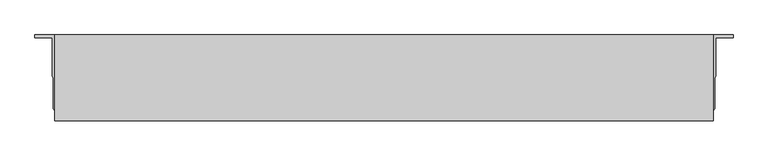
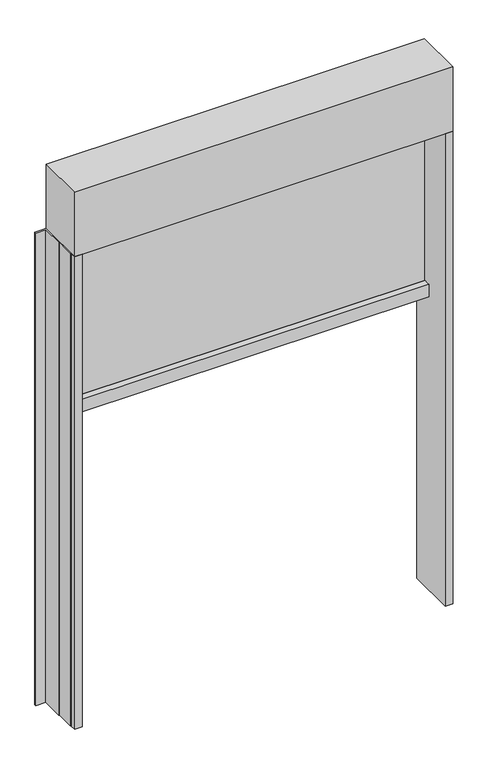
"""IFC4 building model written with IfcOpenShell, lengths in millimetres: proxy geometry, Renson_Fixscreen_Minimal_Single : Recessed - Front of the window - Large - Access downwards - Fabric close to the window."""

from ifc_helpers import new_model, si_unit, point, frame, frame_2d, origin, origin_with_axes, place, context, project, spatial, polyline, circle_curve, trimmed, segment, composite_curve, outline, extrude, source, transform, mapped, element, save


def generic_models_9211857c(model_context):
    return source(origin(), model_context, "Body", "SweptSolid", [
        extrude(outline(polyline([(480.0, 563.5959909), (480.0, 693.5959909), (530.0, 693.5959909), (530.0, 689.6512978), (503.5, 689.6512978), (503.5, 631.1902044), (502.0, 628.8617773), (502.0, 581.1602044), (500.0, 578.3317773), (500.0, 563.5959909), (480.0, 563.5959909)])), origin_with_axes(), (0.0, 0.0, 1.0), 1320.0),
        extrude(outline(polyline([(-480.0, 563.5959909), (-500.0, 563.5959909), (-500.0, 578.3317773), (-502.0, 581.1602044), (-502.0, 628.8617773), (-503.5, 631.1902044), (-503.5, 689.6512978), (-530.0, 689.6512978), (-530.0, 693.5959909), (-480.0, 693.5959909), (-480.0, 563.5959909)])), origin_with_axes(), (0.0, 0.0, 1.0), 1320.0),
        extrude(outline(composite_curve([segment(polyline([(678.5959909, 820.0), (638.0960943, 820.0), (638.0960943, 854.1156826), (655.2198229, 855.0)]), True, "CONTINUOUS"), segment(trimmed(circle_curve(frame_2d((655.2459909, 854.5006852)), 0.5), [point((655.2198229, 855.0))], [point((655.7459909, 854.5006852))], False, "CARTESIAN"), True, "CONTINUOUS"), segment(polyline([(655.7459909, 854.5006852), (655.7459909, 853.5367989), (654.4808525, 853.5367989), (655.221156, 849.0119223)]), True, "CONTINUOUS"), segment(trimmed(circle_curve(frame_2d((615.7459909, 842.5534911)), 40.0), [point((655.221156, 849.0119223))], [point((655.7459909, 842.5534911))], False, "CARTESIAN"), True, "CONTINUOUS"), segment(polyline([(655.7459909, 842.5534911), (655.7459909, 834.5006852)]), True, "CONTINUOUS"), segment(trimmed(circle_curve(frame_2d((657.7459909, 834.5006852)), 2.0), [point((655.7459909, 834.5006852))], [point((657.7459909, 832.5006852))], True, "CARTESIAN"), True, "CONTINUOUS"), segment(polyline([(657.7459909, 832.5006852), (659.4459909, 832.5006852)]), True, "CONTINUOUS"), segment(trimmed(circle_curve(frame_2d((659.4459909, 834.5006852)), 2.0), [point((659.4459909, 832.5006852))], [point((661.4459909, 834.5006852))], True, "CARTESIAN"), True, "CONTINUOUS"), segment(polyline([(661.4459909, 834.5006852), (661.4459909, 842.5534911)]), True, "CONTINUOUS"), segment(trimmed(circle_curve(frame_2d((701.4459909, 842.5534911)), 40.0), [point((661.4459909, 842.5534911))], [point((661.9708257, 849.0119223))], False, "CARTESIAN"), True, "CONTINUOUS"), segment(polyline([(661.9708257, 849.0119223), (662.7111292, 853.5367989), (661.4459909, 853.5367989), (661.4459909, 854.5006852)]), True, "CONTINUOUS"), segment(trimmed(circle_curve(frame_2d((661.9459909, 854.5006852)), 0.5), [point((661.4459909, 854.5006852))], [point((661.9721588, 855.0))], False, "CARTESIAN"), True, "CONTINUOUS"), segment(polyline([(661.9721588, 855.0), (678.5959909, 854.1156826), (678.5959909, 820.0)]), True, "CONTINUOUS")], self_intersect=False)), frame((-480.0, 0.0, 0.0), z_axis=(1.0, 0.0, 0.0), x_axis=(0.0, 1.0, 0.0)), (0.0, 0.0, 1.0), 960.0),
        extrude(outline(polyline([(-500.0, 563.5959909), (-500.0, 693.5959909), (500.0, 693.5959909), (500.0, 563.5959909), (-500.0, 563.5959909)])), frame((0.0, 0.0, 1320.0), z_axis=(0.0, 0.0, 1.0), x_axis=(1.0, 0.0, 0.0)), (0.0, 0.0, 1.0), 180.0),
        extrude(outline(polyline([(-480.0, 660.0959909), (480.0, 660.0959909), (480.0, 657.0959909), (-480.0, 657.0959909), (-480.0, 660.0959909)])), frame((0.0, 0.0, 832.5006852), z_axis=(0.0, 0.0, 1.0), x_axis=(1.0, 0.0, 0.0)), (0.0, 0.0, 1.0), 487.4993148),
    ])


if __name__ == "__main__":
    model = new_model("IFC4")
    model_context = context("Model", 3, world=origin())
    ifc_project = project(units=[si_unit("LENGTHUNIT", "METRE", prefix="MILLI")], contexts=[model_context])
    site = spatial("IfcSite", under=ifc_project)
    building = spatial("IfcBuilding", under=site)
    placement = place(None, origin())
    generic_models_shape = generic_models_9211857c(model_context)
    element("IfcBuildingElementProxy", 1, Name="Renson_Fixscreen_Minimal_Single : Recessed - Front of the window - Large - Access downwards - Fabric close to the window", ObjectType="Renson_Fixscreen_Minimal_Single : Recessed - Front of the window - Large - Access downwards - Fabric close to the window", at=placement, inside=building, context=model_context, shape_type="MappedRepresentation", body=[
        mapped(generic_models_shape, transform((0.0, 0.0, 0.0), x_axis=(1.0, 0.0, 0.0), y_axis=(0.0, 1.0, 0.0), z_axis=(0.0, 0.0, 1.0))),
    ])
    save(model, "model.ifc")
